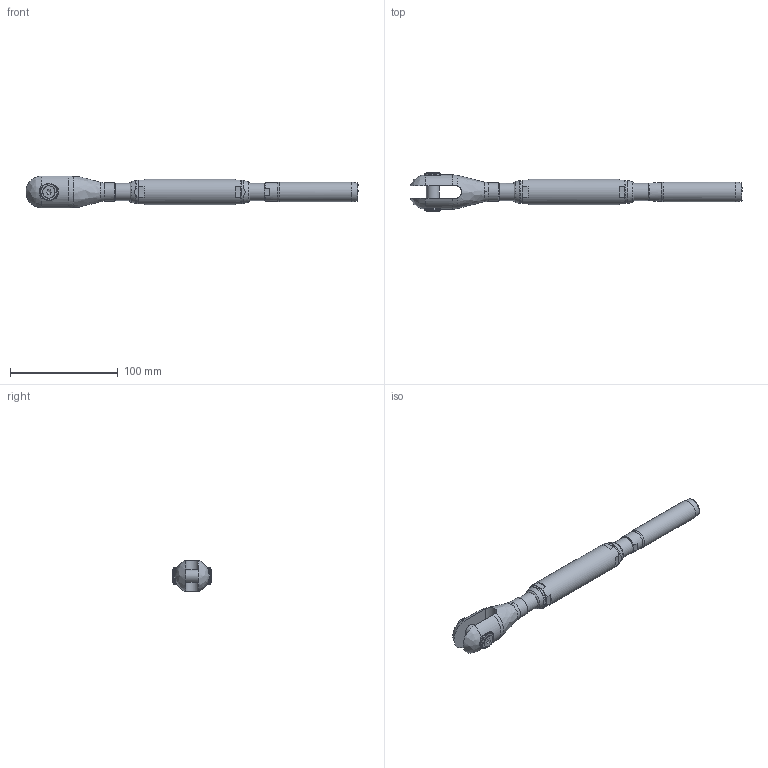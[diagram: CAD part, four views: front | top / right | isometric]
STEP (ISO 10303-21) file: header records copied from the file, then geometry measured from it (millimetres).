
FILE_DESCRIPTION(/* description */ (''),/* implementation_level */ '2;1');
FILE_NAME(/* name */ 'TBC 08_S355',/* time_stamp */ '2023-05-23T18:17:29+02:00',/* author */ (''),/* organization */ (''),/* preprocessor_version */ 'ST-DEVELOPER v16.5',/* originating_system */ 'Rhino 7.22',/* authorisation */ '');
FILE_SCHEMA (('CONFIG_CONTROL_DESIGN'));
Length unit declared in the file: millimetre
Products named in the file (1): Document
Bounding box: 308.81 x 36.74 x 29.66 mm (x, y, z)
Volume: 102087.1 mm3; surface area: 39003.4 mm2
Topology: 10 solids, 10 shells, 142 faces, 389 edges, 268 vertices
Faces by surface type: plane 66, bspline 41, cylinder 35
Full cylindrical faces by diameter (mm): 4.917 x2, 6 x2, 6.5 x2, 11.34 x2, 12 x1, 13 x2, 13.835 x4, 16 x4, 17.4 x2, 18.3 x1, 19 x1, 24 x1
Entity records: 5945 total; most frequent: CARTESIAN_POINT 3485, ORIENTED_EDGE 770, EDGE_CURVE 385, VERTEX_POINT 268, EDGE_LOOP 161, B_SPLINE_CURVE_WITH_KNOTS 160, ADVANCED_FACE 142, FACE_OUTER_BOUND 142
